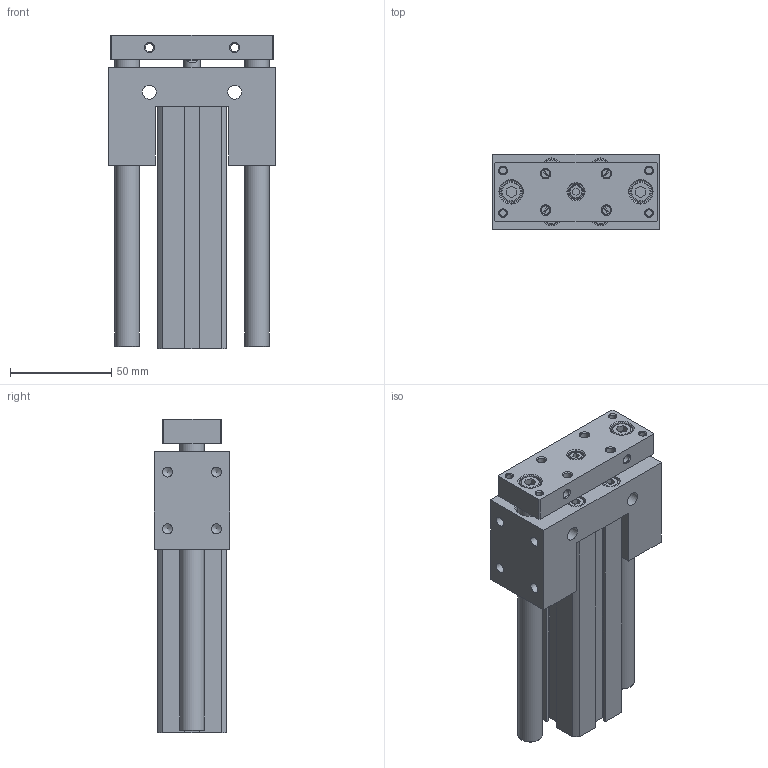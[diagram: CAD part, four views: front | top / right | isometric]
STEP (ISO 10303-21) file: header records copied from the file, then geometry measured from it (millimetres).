
FILE_DESCRIPTION((''),'2;1');
FILE_NAME('I:\3D電子目錄\氣缸\JCB\JCB\JCB20-S\JCB20x90-S.stp','2007-08-21T18:29:39',('Administrator'),(''),'Autodesk Inventor 11','Autodesk Inventor 11','');
FILE_SCHEMA(('AUTOMOTIVE_DESIGN { 1 0 10303 214 1 1 1 1 }'));
Length unit declared in the file: millimetre
Products named in the file (1): JCB20
Bounding box: 82 x 37 x 154.5 mm (x, y, z)
Volume: 256569.1 mm3; surface area: 79313.8 mm2
Topology: 5 solids, 5 shells, 293 faces, 643 edges, 415 vertices
Faces by surface type: plane 150, bspline 53, cylinder 45, cone 37, torus 8
Full cylindrical faces by diameter (mm): 1.5 x2, 4.3 x4, 4.917 x4, 7 x9, 8 x1, 8.5 x4, 9 x1, 10 x2, 12 x2, 13 x2, 14 x2, 22 x4, 23.2 x2
Entity records: 7875 total; most frequent: CARTESIAN_POINT 1985, DIRECTION 1184, ORIENTED_EDGE 992, EDGE_LOOP 504, EDGE_CURVE 496, AXIS2_PLACEMENT_3D 447, VERTEX_POINT 394, FACE_OUTER_BOUND 293
